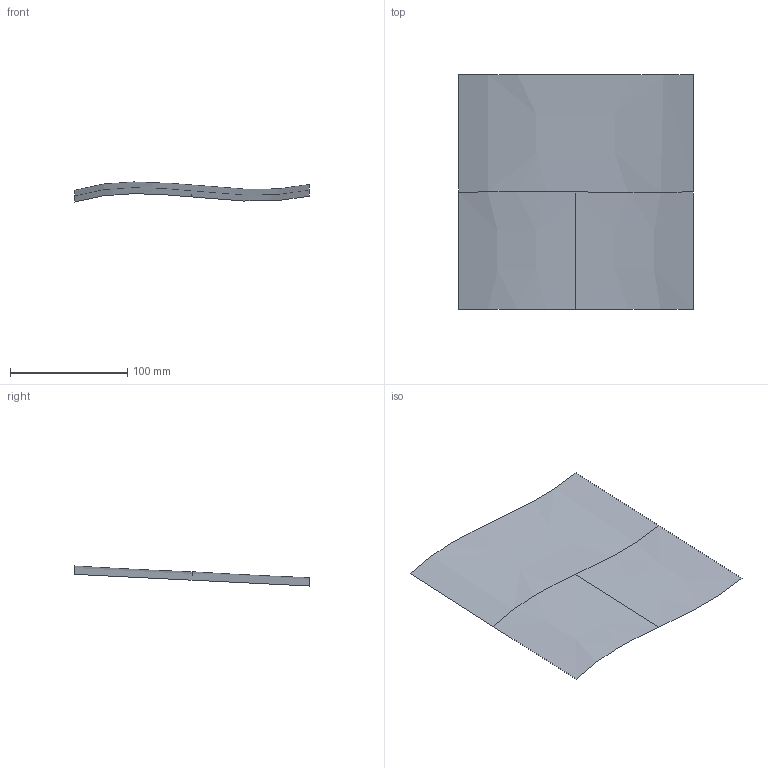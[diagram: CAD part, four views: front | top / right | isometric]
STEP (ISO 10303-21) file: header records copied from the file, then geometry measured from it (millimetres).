
FILE_DESCRIPTION(('Test'),'2;1');
FILE_NAME('test.step','1970-01-01T00:00:00',(''),(''),'','','');
FILE_SCHEMA(('AUTOMOTIVE_DESIGN { 1 0 10303 214 1 1 1 1 }'));
Length unit declared in the file: millimetre
Products named in the file (1): Test
Bounding box: 200 x 200 x 17.11 mm (x, y, z)
Surface area: 40295.7 mm2 (no closed solid volume)
Topology: 0 solids, 1 shells, 3 faces, 10 edges, 8 vertices
Faces by surface type: bspline 3
Entity records: 167 total; most frequent: CARTESIAN_POINT 97, ORIENTED_EDGE 13, B_SPLINE_CURVE_WITH_KNOTS 10, EDGE_CURVE 10, VERTEX_POINT 8, B_SPLINE_SURFACE_WITH_KNOTS 3, EDGE_LOOP 3, FACE_BOUND 3
